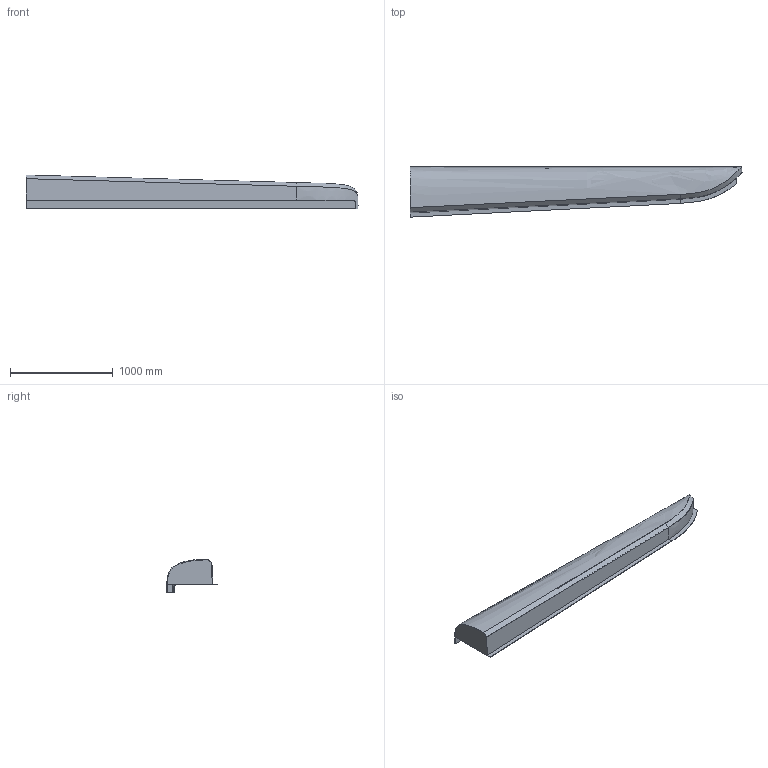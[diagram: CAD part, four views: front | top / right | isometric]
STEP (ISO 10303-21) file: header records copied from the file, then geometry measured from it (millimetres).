
FILE_DESCRIPTION(/* description */ (''),/* implementation_level */ '2;1');
FILE_NAME(/* name */ 'roof_part_3_left',/* time_stamp */ '2018-02-20T19:08:19+01:00',/* author */ (''),/* organization */ (''),/* preprocessor_version */ 'ST-DEVELOPER v14',/* originating_system */ '',/* authorisation */ '');
FILE_SCHEMA (('CONFIG_CONTROL_DESIGN'));
Length unit declared in the file: millimetre
Products named in the file (1): Document
Bounding box: 3234.51 x 489.48 x 330.46 mm (x, y, z)
Surface area: 5188311.2 mm2 (no closed solid volume)
Topology: 0 solids, 1 shells, 34 faces, 91 edges, 53 vertices
Faces by surface type: bspline 30, plane 4
Entity records: 28654 total; most frequent: CARTESIAN_POINT 28011, ORIENTED_EDGE 166, EDGE_CURVE 94, B_SPLINE_CURVE_WITH_KNOTS 94, VERTEX_POINT 53, ADVANCED_FACE 34, FACE_OUTER_BOUND 34, EDGE_LOOP 34
